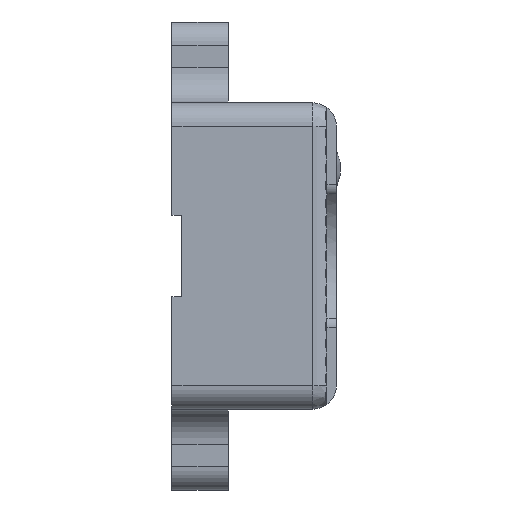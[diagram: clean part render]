
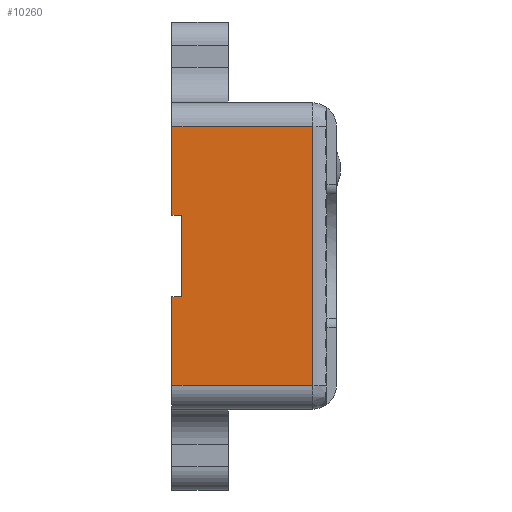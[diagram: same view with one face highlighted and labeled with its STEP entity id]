
A CAD part, left-side view. The second image highlights one B-rep face of the part: STEP entity #10260.
In plain terms, the highlighted planar face has unit normal (-1, 0, 0).
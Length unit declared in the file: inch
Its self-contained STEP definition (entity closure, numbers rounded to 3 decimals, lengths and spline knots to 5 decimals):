
#9318 = VERTEX_POINT ( 'NONE', #21799 ) ;
#9322 = EDGE_CURVE ( 'NONE', #9318, #9323, #21798, .T. ) ;
#9323 = VERTEX_POINT ( 'NONE', #21794 ) ;
#9614 = VERTEX_POINT ( 'NONE', #22376 ) ;
#9617 = EDGE_CURVE ( 'NONE', #9614, #9318, #22375, .T. ) ;
#10186 = EDGE_CURVE ( 'NONE', #9323, #10187, #23418, .T. ) ;
#10187 = VERTEX_POINT ( 'NONE', #23414 ) ;
#10242 = VERTEX_POINT ( 'NONE', #23464 ) ;
#10243 = ORIENTED_EDGE ( 'NONE', *, *, #10244, .F. ) ;
#10244 = EDGE_CURVE ( 'NONE', #10245, #10242, #23463, .T. ) ;
#10245 = VERTEX_POINT ( 'NONE', #23459 ) ;
#10246 = ORIENTED_EDGE ( 'NONE', *, *, #10247, .F. ) ;
#10247 = EDGE_CURVE ( 'NONE', #10248, #10245, #23458, .T. ) ;
#10248 = VERTEX_POINT ( 'NONE', #23454 ) ;
#10249 = ORIENTED_EDGE ( 'NONE', *, *, #10250, .T. ) ;
#10250 = EDGE_CURVE ( 'NONE', #10248, #10187, #23516, .T. ) ;
#10251 = ORIENTED_EDGE ( 'NONE', *, *, #10186, .F. ) ;
#10260 = ADVANCED_FACE ( 'NONE', ( #23506 ), #23505, .F. ) ;
#10261 = EDGE_LOOP ( 'NONE', ( #10262, #10263, #10264, #10267, #10243, #10246, #10249, #10251 ) ) ;
#10262 = ORIENTED_EDGE ( 'NONE', *, *, #9322, .F. ) ;
#10263 = ORIENTED_EDGE ( 'NONE', *, *, #9617, .F. ) ;
#10264 = ORIENTED_EDGE ( 'NONE', *, *, #10265, .T. ) ;
#10265 = EDGE_CURVE ( 'NONE', #9614, #10266, #23500, .T. ) ;
#10266 = VERTEX_POINT ( 'NONE', #23496 ) ;
#10267 = ORIENTED_EDGE ( 'NONE', *, *, #10268, .F. ) ;
#10268 = EDGE_CURVE ( 'NONE', #10242, #10266, #23495, .T. ) ;
#21794 = CARTESIAN_POINT ( 'NONE',  ( 0.219, 0.515, 1.28372 ) ) ;
#21795 = DIRECTION ( 'NONE',  ( 0., 0., 1. ) ) ;
#21796 = VECTOR ( 'NONE', #21795, 39.37008 ) ;
#21797 = CARTESIAN_POINT ( 'NONE',  ( 0.219, 0.515, 0.24694 ) ) ;
#21798 = LINE ( 'NONE', #21797, #21796 ) ;
#21799 = CARTESIAN_POINT ( 'NONE',  ( 0.219, 0.515, 0.84622 ) ) ;
#22372 = DIRECTION ( 'NONE',  ( 0., -1., 0. ) ) ;
#22373 = VECTOR ( 'NONE', #22372, 39.37008 ) ;
#22374 = CARTESIAN_POINT ( 'NONE',  ( 0.219, 0.265, 0.84622 ) ) ;
#22375 = LINE ( 'NONE', #22374, #22373 ) ;
#22376 = CARTESIAN_POINT ( 'NONE',  ( 0.219, 0.565, 0.84622 ) ) ;
#23414 = CARTESIAN_POINT ( 'NONE',  ( 0.219, 0.565, 1.28372 ) ) ;
#23415 = DIRECTION ( 'NONE',  ( 0., 1., 0. ) ) ;
#23416 = VECTOR ( 'NONE', #23415, 39.37008 ) ;
#23417 = CARTESIAN_POINT ( 'NONE',  ( 0.219, 0.265, 1.28372 ) ) ;
#23418 = LINE ( 'NONE', #23417, #23416 ) ;
#23454 = CARTESIAN_POINT ( 'NONE',  ( 0.219, 0.565, 1.758 ) ) ;
#23455 = DIRECTION ( 'NONE',  ( 0., -1., 0. ) ) ;
#23456 = VECTOR ( 'NONE', #23455, 39.37008 ) ;
#23457 = CARTESIAN_POINT ( 'NONE',  ( 0.219, 0.265, 1.758 ) ) ;
#23458 = LINE ( 'NONE', #23457, #23456 ) ;
#23459 = CARTESIAN_POINT ( 'NONE',  ( 0.219, -0.188, 1.758 ) ) ;
#23460 = DIRECTION ( 'NONE',  ( 0., 0., -1. ) ) ;
#23461 = VECTOR ( 'NONE', #23460, 39.37008 ) ;
#23462 = CARTESIAN_POINT ( 'NONE',  ( 0.219, -0.188, 0.37194 ) ) ;
#23463 = LINE ( 'NONE', #23462, #23461 ) ;
#23464 = CARTESIAN_POINT ( 'NONE',  ( 0.219, -0.188, 0.37194 ) ) ;
#23492 = DIRECTION ( 'NONE',  ( 0., 1., 0. ) ) ;
#23493 = VECTOR ( 'NONE', #23492, 39.37008 ) ;
#23494 = CARTESIAN_POINT ( 'NONE',  ( 0.219, 0.265, 0.37194 ) ) ;
#23495 = LINE ( 'NONE', #23494, #23493 ) ;
#23496 = CARTESIAN_POINT ( 'NONE',  ( 0.219, 0.565, 0.37194 ) ) ;
#23497 = DIRECTION ( 'NONE',  ( 0., 0., -1. ) ) ;
#23498 = VECTOR ( 'NONE', #23497, 39.37008 ) ;
#23499 = CARTESIAN_POINT ( 'NONE',  ( 0.219, 0.565, 0.24694 ) ) ;
#23500 = LINE ( 'NONE', #23499, #23498 ) ;
#23501 = DIRECTION ( 'NONE',  ( 0., 0., -1. ) ) ;
#23502 = DIRECTION ( 'NONE',  ( 1., 0., 0. ) ) ;
#23503 = CARTESIAN_POINT ( 'NONE',  ( 0.219, 0.265, 0.24694 ) ) ;
#23504 = AXIS2_PLACEMENT_3D ( 'NONE', #23503, #23502, #23501 ) ;
#23505 = PLANE ( 'NONE',  #23504 ) ;
#23506 = FACE_OUTER_BOUND ( 'NONE', #10261, .T. ) ;
#23513 = DIRECTION ( 'NONE',  ( 0., 0., -1. ) ) ;
#23514 = VECTOR ( 'NONE', #23513, 39.37008 ) ;
#23515 = CARTESIAN_POINT ( 'NONE',  ( 0.219, 0.565, 0.24694 ) ) ;
#23516 = LINE ( 'NONE', #23515, #23514 ) ;
